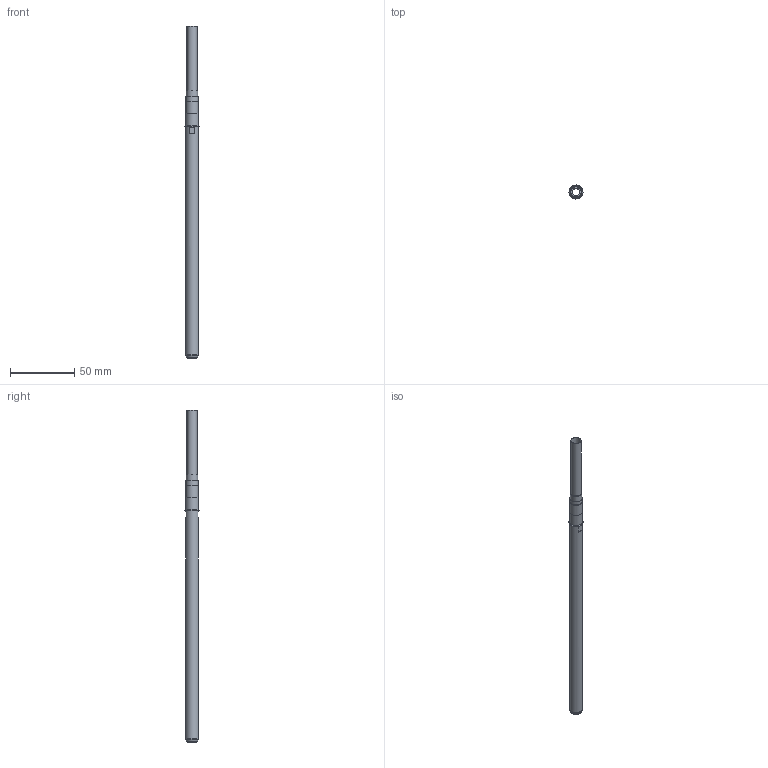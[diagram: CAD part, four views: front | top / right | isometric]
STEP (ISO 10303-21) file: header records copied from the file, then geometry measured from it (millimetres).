
FILE_DESCRIPTION(('STEP AP214'),'1');
FILE_NAME('LC-10P200-CON SEDE.stp','2025-10-28T12:39:12',(' '),(' '),'Spatial InterOp 3D',' ',' ');
FILE_SCHEMA(('AUTOMOTIVE_DESIGN { 1 0 10303 214 1 1 1 1 }'));
Length unit declared in the file: metre
Products named in the file (3): LC-10P200-SEDE; LC-10P200
Bounding box: 11 x 11 x 257.75 mm (x, y, z)
Volume: 9972 mm3; surface area: 12501.9 mm2
Topology: 1 solids, 3 shells, 23 faces, 50 edges, 34 vertices
Faces by surface type: plane 10, cylinder 7, cone 4, torus 2
Full cylindrical faces by diameter (mm): 6 x1, 8 x1, 8.8 x1, 9.8 x1, 10 x2
Entity records: 919 total; most frequent: DIRECTION 110, CARTESIAN_POINT 89, ORIENTED_EDGE 60, AXIS2_PLACEMENT_3D 50, STYLED_ITEM 49, PRESENTATION_STYLE_ASSIGNMENT 49, COLOUR_RGB 49, EDGE_LOOP 41
